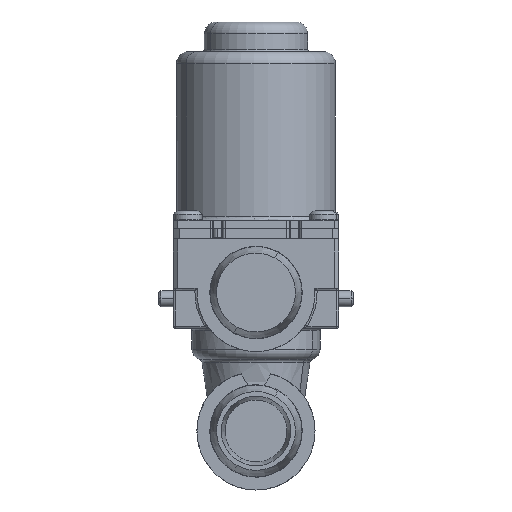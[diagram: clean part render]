
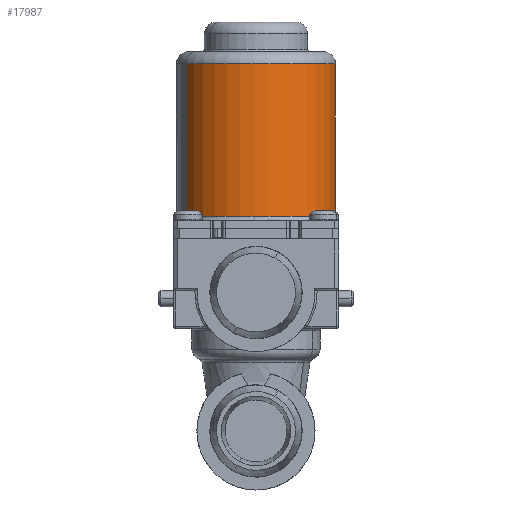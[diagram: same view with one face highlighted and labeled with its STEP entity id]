
A CAD part, left-side view. The second image highlights one B-rep face of the part: STEP entity #17987.
In plain terms, the highlighted cylindrical face has radius 19.25 mm (diameter 38.5 mm), a partial arc.
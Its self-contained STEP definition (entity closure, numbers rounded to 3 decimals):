
#17923=AXIS2_PLACEMENT_3D('Circle Axis2P3D',#17921,#17922,$) ;
#17960=AXIS2_PLACEMENT_3D('Cylinder Axis2P3D',#17957,#17958,#17959) ;
#17971=AXIS2_PLACEMENT_3D('Circle Axis2P3D',#17969,#17970,$) ;
#17918=CARTESIAN_POINT('Vertex',(-9.229,16.893,64.05)) ;
#17921=CARTESIAN_POINT('Axis2P3D Location',(0.,0.,64.05)) ;
#17925=CARTESIAN_POINT('Vertex',(9.229,-16.893,64.05)) ;
#17957=CARTESIAN_POINT('Axis2P3D Location',(0.,0.,49.2)) ;
#17962=CARTESIAN_POINT('Line Origine',(-9.229,16.893,45.625)) ;
#17966=CARTESIAN_POINT('Vertex',(-9.229,16.893,27.2)) ;
#17969=CARTESIAN_POINT('Axis2P3D Location',(0.,0.,27.2)) ;
#17973=CARTESIAN_POINT('Vertex',(9.229,-16.893,27.2)) ;
#17976=CARTESIAN_POINT('Line Origine',(9.229,-16.893,45.625)) ;
#17922=DIRECTION('Axis2P3D Direction',(0.,0.,1.)) ;
#17958=DIRECTION('Axis2P3D Direction',(0.,0.,1.)) ;
#17959=DIRECTION('Axis2P3D XDirection',(-0.479,0.878,0.)) ;
#17963=DIRECTION('Vector Direction',(0.,0.,1.)) ;
#17970=DIRECTION('Axis2P3D Direction',(0.,0.,1.)) ;
#17977=DIRECTION('Vector Direction',(0.,0.,1.)) ;
#17964=VECTOR('Line Direction',#17963,1.) ;
#17978=VECTOR('Line Direction',#17977,1.) ;
#17982=ORIENTED_EDGE('',*,*,#17968,.F.) ;
#17983=ORIENTED_EDGE('',*,*,#17975,.F.) ;
#17984=ORIENTED_EDGE('',*,*,#17980,.T.) ;
#17985=ORIENTED_EDGE('',*,*,#17927,.F.) ;
#17987=ADVANCED_FACE('Polgehaeuse',(#17986),#17961,.T.) ;
#17924=CIRCLE('generated circle',#17923,19.25) ;
#17972=CIRCLE('generated circle',#17971,19.25) ;
#17961=CYLINDRICAL_SURFACE('generated cylinder',#17960,19.25) ;
#17927=EDGE_CURVE('',#17919,#17926,#17924,.T.) ;
#17968=EDGE_CURVE('',#17967,#17919,#17965,.T.) ;
#17975=EDGE_CURVE('',#17974,#17967,#17972,.F.) ;
#17980=EDGE_CURVE('',#17974,#17926,#17979,.T.) ;
#17981=EDGE_LOOP('',(#17982,#17983,#17984,#17985)) ;
#17986=FACE_OUTER_BOUND('',#17981,.T.) ;
#17965=LINE('Line',#17962,#17964) ;
#17979=LINE('Line',#17976,#17978) ;
#17919=VERTEX_POINT('',#17918) ;
#17926=VERTEX_POINT('',#17925) ;
#17967=VERTEX_POINT('',#17966) ;
#17974=VERTEX_POINT('',#17973) ;
